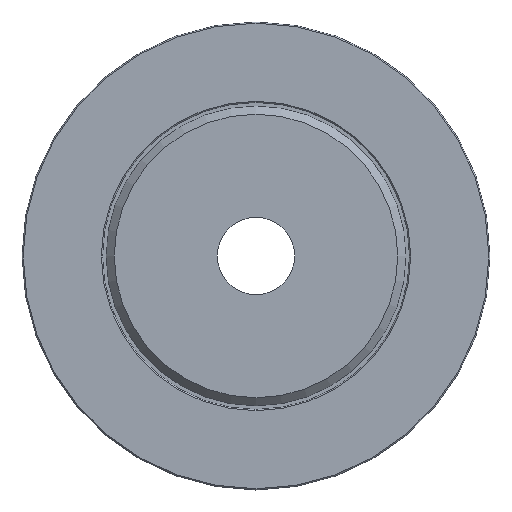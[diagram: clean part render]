
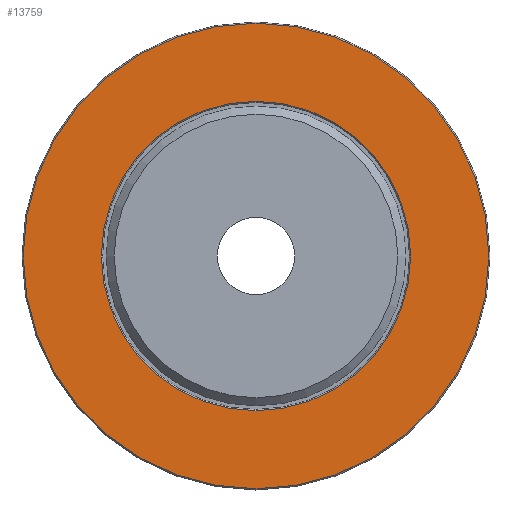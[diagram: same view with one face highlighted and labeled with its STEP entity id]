
A CAD part, top view. The second image highlights one B-rep face of the part: STEP entity #13759.
In plain terms, the highlighted planar face has unit normal (0, 0, 1).
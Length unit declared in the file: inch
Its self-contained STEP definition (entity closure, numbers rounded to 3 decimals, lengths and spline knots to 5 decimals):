
#11 = PLANE ( 'NONE',  #17613 ) ;
#146 = CARTESIAN_POINT ( 'NONE',  ( 4., 0., 0.375 ) ) ;
#228 = CARTESIAN_POINT ( 'NONE',  ( 0., 0., 0.375 ) ) ;
#312 = ORIENTED_EDGE ( 'NONE', *, *, #14747, .T. ) ;
#925 = AXIS2_PLACEMENT_3D ( 'NONE', #3977, #18800, #6114 ) ;
#1701 = ORIENTED_EDGE ( 'NONE', *, *, #9569, .T. ) ;
#1834 = AXIS2_PLACEMENT_3D ( 'NONE', #228, #15025, #2329 ) ;
#2329 = DIRECTION ( 'NONE',  ( -1., 0., 0. ) ) ;
#3965 = EDGE_CURVE ( 'NONE', #15103, #7109, #22763, .T. ) ;
#3977 = CARTESIAN_POINT ( 'NONE',  ( 0., 0., 0.375 ) ) ;
#4365 = CARTESIAN_POINT ( 'NONE',  ( 0., 0., 0.375 ) ) ;
#4804 = EDGE_LOOP ( 'NONE', ( #1701, #312 ) ) ;
#5650 = CARTESIAN_POINT ( 'NONE',  ( -6.02, 0., 0.375 ) ) ;
#6114 = DIRECTION ( 'NONE',  ( -1., 0., 0. ) ) ;
#6173 = FACE_BOUND ( 'NONE', #4804, .T. ) ;
#6481 = CARTESIAN_POINT ( 'NONE',  ( 0., 6.05, 0.375 ) ) ;
#6502 = DIRECTION ( 'NONE',  ( -1., 0., 0. ) ) ;
#7109 = VERTEX_POINT ( 'NONE', #5650 ) ;
#7452 = CARTESIAN_POINT ( 'NONE',  ( 0., 0., 0.375 ) ) ;
#8384 = AXIS2_PLACEMENT_3D ( 'NONE', #4365, #19176, #6502 ) ;
#9569 = EDGE_CURVE ( 'NONE', #18509, #25033, #10380, .T. ) ;
#9572 = ORIENTED_EDGE ( 'NONE', *, *, #26316, .T. ) ;
#9585 = DIRECTION ( 'NONE',  ( -1., 0., 0. ) ) ;
#10380 = CIRCLE ( 'NONE', #925, 4. ) ;
#10752 = DIRECTION ( 'NONE',  ( 0., 0., -1. ) ) ;
#12552 = EDGE_LOOP ( 'NONE', ( #9572, #24325 ) ) ;
#13759 = ADVANCED_FACE ( 'NONE', ( #6173, #22416 ), #11, .F. ) ;
#14131 = CIRCLE ( 'NONE', #1834, 4. ) ;
#14747 = EDGE_CURVE ( 'NONE', #25033, #18509, #14131, .T. ) ;
#15025 = DIRECTION ( 'NONE',  ( 0., 0., -1. ) ) ;
#15103 = VERTEX_POINT ( 'NONE', #17127 ) ;
#17127 = CARTESIAN_POINT ( 'NONE',  ( 6.02, 0., 0.375 ) ) ;
#17613 = AXIS2_PLACEMENT_3D ( 'NONE', #6481, #10752, #25559 ) ;
#18509 = VERTEX_POINT ( 'NONE', #146 ) ;
#18800 = DIRECTION ( 'NONE',  ( 0., 0., -1. ) ) ;
#19176 = DIRECTION ( 'NONE',  ( 0., 0., 1. ) ) ;
#20641 = CIRCLE ( 'NONE', #8384, 6.02 ) ;
#22234 = DIRECTION ( 'NONE',  ( 0., 0., 1. ) ) ;
#22416 = FACE_OUTER_BOUND ( 'NONE', #12552, .T. ) ;
#22763 = CIRCLE ( 'NONE', #24810, 6.02 ) ;
#24325 = ORIENTED_EDGE ( 'NONE', *, *, #3965, .T. ) ;
#24810 = AXIS2_PLACEMENT_3D ( 'NONE', #7452, #22234, #9585 ) ;
#25033 = VERTEX_POINT ( 'NONE', #26149 ) ;
#25559 = DIRECTION ( 'NONE',  ( -1., 0., 0. ) ) ;
#26149 = CARTESIAN_POINT ( 'NONE',  ( -4., 0., 0.375 ) ) ;
#26316 = EDGE_CURVE ( 'NONE', #7109, #15103, #20641, .T. ) ;
